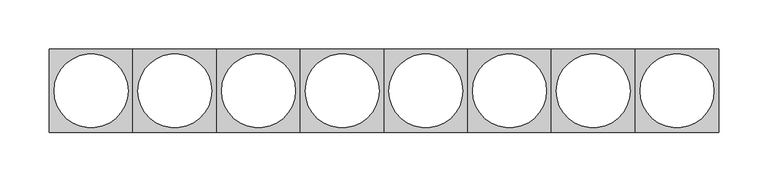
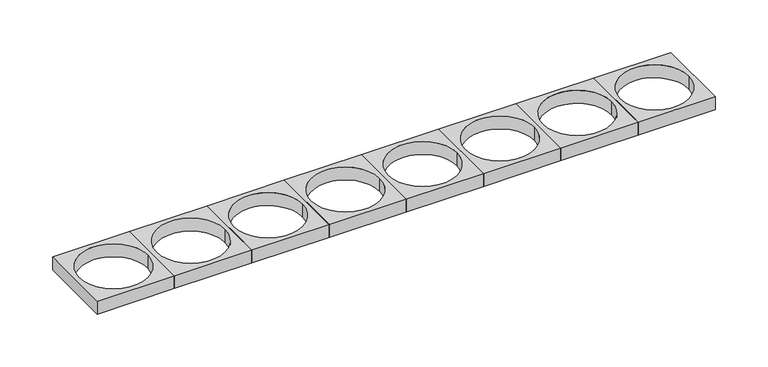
"""IFC4 building model written with IfcOpenShell, lengths in millimetres: duct fitting geometry, Mosaic Суппорт на 8 модулей : 85мм."""

from ifc_helpers import new_model, si_unit, point, frame_2d, origin, origin_with_axes, origin_2d, place, context, project, spatial, polyline, circle_curve, trimmed, segment, composite_curve, outline, extrude, source, transform, mapped, element, save


def duct_fitting_f6a7a035(model_context):
    return source(origin(), model_context, "Body", "SweptSolid", [
        extrude(outline(polyline([(637.5, 42.5), (637.5, -42.5), (552.5, -42.5), (552.5, 42.5), (637.5, 42.5)]), holes=[composite_curve([segment(trimmed(circle_curve(frame_2d((595.0, 0.0)), 37.5), [point((557.5, 0.0))], [point((632.5, 0.0))], True, "CARTESIAN"), True, "CONTINUOUS"), segment(trimmed(circle_curve(frame_2d((595.0, 0.0)), 37.5), [point((632.5, 0.0))], [point((557.5, 0.0))], True, "CARTESIAN"), True, "CONTINUOUS")], self_intersect=False)]), origin_with_axes(), (0.0, 0.0, 1.0), 15.0),
        extrude(outline(polyline([(552.5, 42.5), (552.5, -42.5), (467.5, -42.5), (467.5, 42.5), (552.5, 42.5)]), holes=[composite_curve([segment(trimmed(circle_curve(frame_2d((510.0, 0.0)), 37.5), [point((472.5, 0.0))], [point((547.5, 0.0))], True, "CARTESIAN"), True, "CONTINUOUS"), segment(trimmed(circle_curve(frame_2d((510.0, 0.0)), 37.5), [point((547.5, 0.0))], [point((472.5, 0.0))], True, "CARTESIAN"), True, "CONTINUOUS")], self_intersect=False)]), origin_with_axes(), (0.0, 0.0, 1.0), 15.0),
        extrude(outline(polyline([(467.5, 42.5), (467.5, -42.5), (382.5, -42.5), (382.5, 42.5), (467.5, 42.5)]), holes=[composite_curve([segment(trimmed(circle_curve(frame_2d((425.0, 0.0)), 37.5), [point((387.5, 0.0))], [point((462.5, 0.0))], True, "CARTESIAN"), True, "CONTINUOUS"), segment(trimmed(circle_curve(frame_2d((425.0, 0.0)), 37.5), [point((462.5, 0.0))], [point((387.5, 0.0))], True, "CARTESIAN"), True, "CONTINUOUS")], self_intersect=False)]), origin_with_axes(), (0.0, 0.0, 1.0), 15.0),
        extrude(outline(polyline([(382.5, 42.5), (382.5, -42.5), (297.5, -42.5), (297.5, 42.5), (382.5, 42.5)]), holes=[composite_curve([segment(trimmed(circle_curve(frame_2d((340.0, 0.0)), 37.5), [point((302.5, 0.0))], [point((377.5, 0.0))], True, "CARTESIAN"), True, "CONTINUOUS"), segment(trimmed(circle_curve(frame_2d((340.0, 0.0)), 37.5), [point((377.5, 0.0))], [point((302.5, 0.0))], True, "CARTESIAN"), True, "CONTINUOUS")], self_intersect=False)]), origin_with_axes(), (0.0, 0.0, 1.0), 15.0),
        extrude(outline(polyline([(297.5, 42.5), (297.5, -42.5), (212.5, -42.5), (212.5, 42.5), (297.5, 42.5)]), holes=[composite_curve([segment(trimmed(circle_curve(frame_2d((255.0, 0.0)), 37.5), [point((217.5, 0.0))], [point((292.5, 0.0))], True, "CARTESIAN"), True, "CONTINUOUS"), segment(trimmed(circle_curve(frame_2d((255.0, 0.0)), 37.5), [point((292.5, 0.0))], [point((217.5, 0.0))], True, "CARTESIAN"), True, "CONTINUOUS")], self_intersect=False)]), origin_with_axes(), (0.0, 0.0, 1.0), 15.0),
        extrude(outline(polyline([(212.5, 42.5), (212.5, -42.5), (127.5, -42.5), (127.5, 42.5), (212.5, 42.5)]), holes=[composite_curve([segment(trimmed(circle_curve(frame_2d((170.0, 0.0)), 37.5), [point((132.5, 0.0))], [point((207.5, 0.0))], True, "CARTESIAN"), True, "CONTINUOUS"), segment(trimmed(circle_curve(frame_2d((170.0, 0.0)), 37.5), [point((207.5, 0.0))], [point((132.5, 0.0))], True, "CARTESIAN"), True, "CONTINUOUS")], self_intersect=False)]), origin_with_axes(), (0.0, 0.0, 1.0), 15.0),
        extrude(outline(polyline([(127.5, 42.5), (127.5, -42.5), (42.5, -42.5), (42.5, 42.5), (127.5, 42.5)]), holes=[composite_curve([segment(trimmed(circle_curve(frame_2d((85.0, 0.0)), 37.5), [point((47.5, 0.0))], [point((122.5, 0.0))], True, "CARTESIAN"), True, "CONTINUOUS"), segment(trimmed(circle_curve(frame_2d((85.0, 0.0)), 37.5), [point((122.5, 0.0))], [point((47.5, 0.0))], True, "CARTESIAN"), True, "CONTINUOUS")], self_intersect=False)]), origin_with_axes(), (0.0, 0.0, 1.0), 15.0),
        extrude(outline(polyline([(42.5, 42.5), (42.5, -42.5), (-42.5, -42.5), (-42.5, 42.5), (42.5, 42.5)]), holes=[composite_curve([segment(trimmed(circle_curve(origin_2d(), 37.5), [point((-37.5, 0.0))], [point((37.5, 0.0))], True, "CARTESIAN"), True, "CONTINUOUS"), segment(trimmed(circle_curve(origin_2d(), 37.5), [point((37.5, 0.0))], [point((-37.5, 0.0))], True, "CARTESIAN"), True, "CONTINUOUS")], self_intersect=False)]), origin_with_axes(), (0.0, 0.0, 1.0), 15.0),
    ])


if __name__ == "__main__":
    model = new_model("IFC4")
    model_context = context("Model", 3, world=origin())
    ifc_project = project(units=[si_unit("LENGTHUNIT", "METRE", prefix="MILLI")], contexts=[model_context])
    site = spatial("IfcSite", under=ifc_project)
    building = spatial("IfcBuilding", under=site)
    placement = place(None, origin())
    duct_fitting_shape = duct_fitting_f6a7a035(model_context)
    element("IfcDuctFitting", 1, ObjectType="Mosaic Суппорт на 8 модулей : 85мм", at=placement, inside=building, context=model_context, shape_type="MappedRepresentation", body=[
        mapped(duct_fitting_shape, transform((0.0, 0.0, 0.0), x_axis=(1.0, 0.0, 0.0), y_axis=(0.0, 1.0, 0.0), z_axis=(0.0, 0.0, 1.0))),
    ])
    save(model, "model.ifc")
